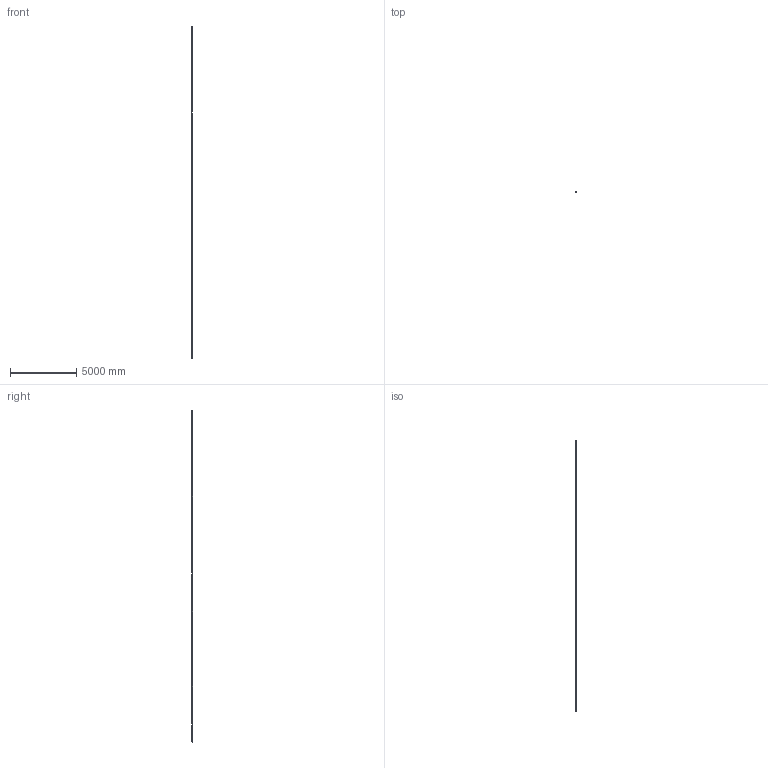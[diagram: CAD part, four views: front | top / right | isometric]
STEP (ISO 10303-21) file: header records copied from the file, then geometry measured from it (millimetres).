
FILE_DESCRIPTION(('Creo Elements/Direct Modeling STEP Export'),'2;1');
FILE_NAME('L-248.stp','2011-11-29T16:26:52',(''),(''),'Creo Elements/Direct Modeling STEP processor for AP214 (Solid Model)','Creo Elements/Direct Modeling 17.0C 05-Feb-2011 (C) Parametric Technology GmbH','');
FILE_SCHEMA(('AUTOMOTIVE_DESIGN { 1 0 10303 214 1 1 1 1 }'));
Length unit declared in the file: millimetre
Products named in the file (5): Modulos_intermedio_(FL-14).6; CABEZA; Modulo_der_(10-ET); Modulo_izq_(L-KT); L-248
Assembly tree (19 placements, depth 2):
  L-248
    Modulos_intermedio_(FL-14).6  x16
    Modulo_izq_(L-KT)
    Modulo_der_(10-ET)
    CABEZA
Bounding box: 51.5 x 87.95 x 25149.1 mm (x, y, z)
Volume: 60712559.7 mm3; surface area: 7370411.8 mm2
Topology: 40 solids, 192 shells, 11301 faces, 31371 edges, 20009 vertices
Faces by surface type: cylinder 4926, plane 4247, cone 890, torus 575, bspline 467, extrusion 170, sphere 26
Entity records: 124988 total; most frequent: CARTESIAN_POINT 35761, ORIENTED_EDGE 18834, DIRECTION 16784, EDGE_CURVE 9397, VERTEX_POINT 6087, AXIS2_PLACEMENT_3D 5938, VECTOR 4908, LINE 4888
